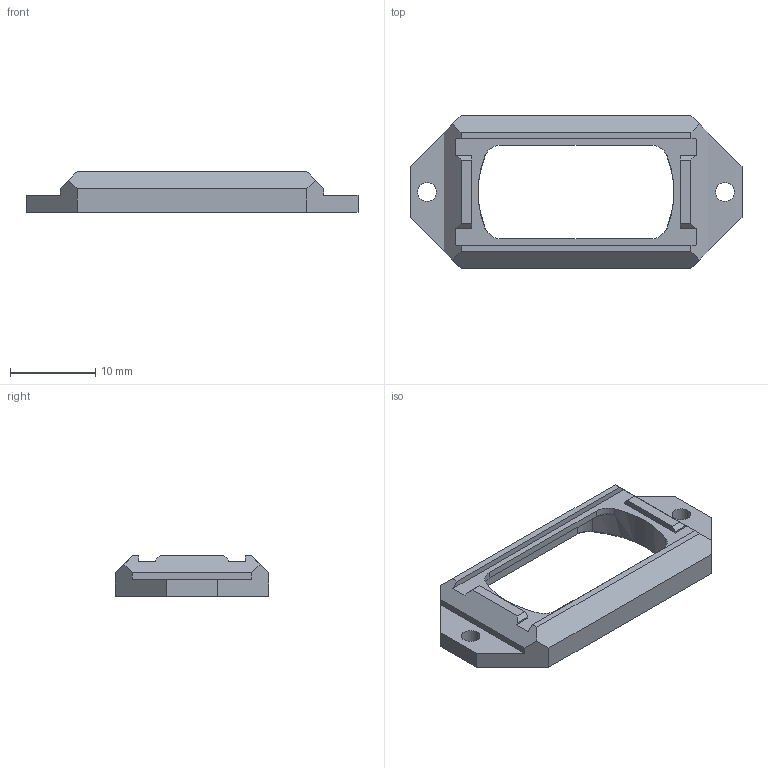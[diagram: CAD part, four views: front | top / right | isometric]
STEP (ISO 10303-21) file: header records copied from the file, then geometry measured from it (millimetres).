
FILE_DESCRIPTION(('CATIA V5 STEP Exchange','CAx-IF Rec.Pracs.--- Model Styling and Organization---1.4--- 2014-01-23','CAx-IF Rec.Pracs.---3D Tessellated Data Validation Properties---0.5---2014-09-14'),'2;1');
FILE_NAME('C:\Users\IS33\Desktop\220112移動データ\手配用データ\DT341M515-00-.stp','2022-01-13T05:58:55+00:00',('none'),('none'),'CATIA Version 5-6 Release 2019 SP3','CATIA V5 STEP AP242 v1','none');
FILE_SCHEMA(('AP242_MANAGED_MODEL_BASED_3D_ENGINEERING_MIM_LF {1 0 10303 442 1 1 4}'));
Length unit declared in the file: millimetre
Products named in the file (1): COVER_APD_1_3-3
Bounding box: 39 x 18 x 4.75 mm (x, y, z)
Volume: 1164.6 mm3; surface area: 1427.6 mm2
Topology: 1 solids, 1 shells, 68 faces, 190 edges, 124 vertices
Faces by surface type: plane 44, cylinder 14, cone 10
Entity records: 2100 total; most frequent: CARTESIAN_POINT 404, ORIENTED_EDGE 380, DIRECTION 284, EDGE_CURVE 190, VECTOR 124, LINE 124, VERTEX_POINT 124, AXIS2_PLACEMENT_3D 104
